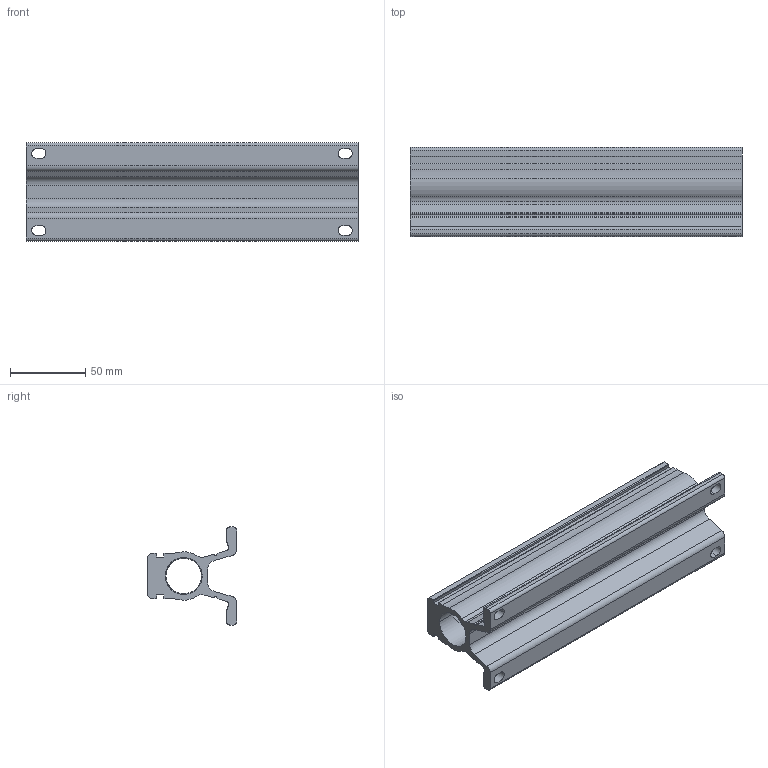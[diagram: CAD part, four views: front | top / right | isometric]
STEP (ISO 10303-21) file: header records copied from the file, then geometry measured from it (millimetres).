
FILE_DESCRIPTION (( 'STEP AP214' ), '1' );
FILE_NAME ('APLALLMUL068038.STEP', '2018-02-09T10:17:17', ( 'utente' ), ( '' ), 'SwSTEP 2.0', 'SolidWorks 2013', '' );
FILE_SCHEMA (( 'AUTOMOTIVE_DESIGN' ));
Length unit declared in the file: millimetre
Products named in the file (1): APLALLMUL068038
Bounding box: 220 x 59 x 65 mm (x, y, z)
Volume: 211973.2 mm3; surface area: 81485.8 mm2
Topology: 1 solids, 1 shells, 87 faces, 270 edges, 176 vertices
Faces by surface type: cylinder 48, plane 28, bspline 8, cone 3
Entity records: 7140 total; most frequent: CARTESIAN_POINT 4718, ORIENTED_EDGE 540, DIRECTION 474, EDGE_CURVE 270, VERTEX_POINT 176, AXIS2_PLACEMENT_3D 166, VECTOR 142, LINE 142
